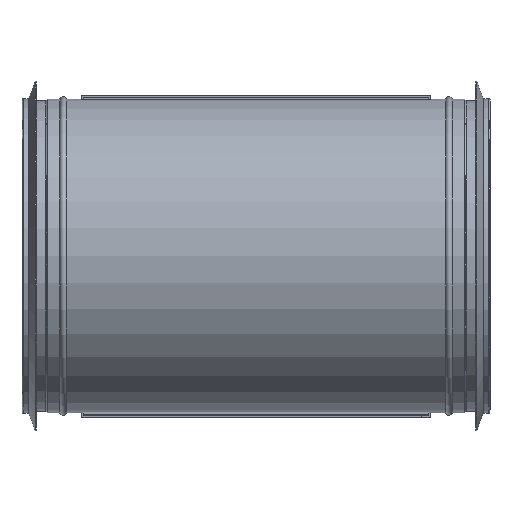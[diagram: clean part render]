
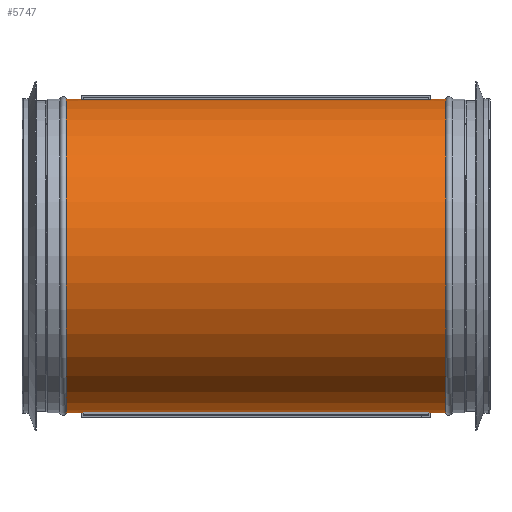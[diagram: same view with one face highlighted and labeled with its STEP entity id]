
A CAD part, top view. The second image highlights one B-rep face of the part: STEP entity #5747.
In plain terms, the highlighted cylindrical face has radius 124 mm (diameter 248 mm), a full revolution.
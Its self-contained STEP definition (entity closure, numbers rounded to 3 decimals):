
#572=LINE('',#11913,#896);
#575=LINE('',#11919,#899);
#896=VECTOR('',#7653,10.);
#899=VECTOR('',#7658,10.);
#944=CYLINDRICAL_SURFACE('',#6328,124.);
#1221=FACE_BOUND('',#1957,.T.);
#1222=FACE_BOUND('',#1958,.T.);
#1544=FACE_OUTER_BOUND('',#1956,.T.);
#1956=EDGE_LOOP('',(#5084));
#1957=EDGE_LOOP('',(#5085,#5086,#5087,#5088));
#1958=EDGE_LOOP('',(#5089));
#1977=CIRCLE('',#5792,124.);
#1983=CIRCLE('',#5799,124.);
#2241=CIRCLE('',#6299,124.);
#2256=CIRCLE('',#6329,124.);
#2266=VERTEX_POINT('',#7808);
#2271=VERTEX_POINT('',#7817);
#2280=VERTEX_POINT('',#7836);
#2281=VERTEX_POINT('',#7838);
#2785=VERTEX_POINT('',#11957);
#2800=VERTEX_POINT('',#12002);
#2815=EDGE_CURVE('',#2266,#2271,#1977,.T.);
#2824=EDGE_CURVE('',#2281,#2280,#1983,.T.);
#3534=EDGE_CURVE('',#2271,#2281,#572,.T.);
#3537=EDGE_CURVE('',#2280,#2266,#575,.T.);
#3551=EDGE_CURVE('',#2785,#2785,#2241,.T.);
#3566=EDGE_CURVE('',#2800,#2800,#2256,.T.);
#5084=ORIENTED_EDGE('',*,*,#3566,.T.);
#5085=ORIENTED_EDGE('',*,*,#2815,.T.);
#5086=ORIENTED_EDGE('',*,*,#3534,.T.);
#5087=ORIENTED_EDGE('',*,*,#2824,.T.);
#5088=ORIENTED_EDGE('',*,*,#3537,.T.);
#5089=ORIENTED_EDGE('',*,*,#3551,.F.);
#5747=ADVANCED_FACE('',(#1544,#1221,#1222),#944,.T.);
#5792=AXIS2_PLACEMENT_3D('',#7819,#6374,#6375);
#5799=AXIS2_PLACEMENT_3D('',#7839,#6391,#6392);
#6299=AXIS2_PLACEMENT_3D('',#11958,#7707,#7708);
#6328=AXIS2_PLACEMENT_3D('',#12001,#7765,#7766);
#6329=AXIS2_PLACEMENT_3D('',#12003,#7767,#7768);
#6374=DIRECTION('center_axis',(-1.,0.,0.));
#6375=DIRECTION('ref_axis',(0.,0.,
-1.));
#6391=DIRECTION('center_axis',(1.,0.,0.));
#6392=DIRECTION('ref_axis',(0.,0.,
-1.));
#7653=DIRECTION('',(1.,0.,0.));
#7658=DIRECTION('',(-1.,0.,0.));
#7707=DIRECTION('center_axis',(-1.,0.,0.));
#7708=DIRECTION('ref_axis',(0.,0.,
-1.));
#7765=DIRECTION('center_axis',(-1.,0.,0.));
#7766=DIRECTION('ref_axis',(0.,0.,
-1.));
#7767=DIRECTION('center_axis',(-1.,0.,0.));
#7768=DIRECTION('ref_axis',(0.,0.,
-1.));
#7808=CARTESIAN_POINT('',(53.2,168.025,12.919));
#7817=CARTESIAN_POINT('',(53.2,-78.625,12.919));
#7819=CARTESIAN_POINT('Origin',(53.2,44.7,0.));
#7836=CARTESIAN_POINT('',(326.2,168.025,12.919));
#7838=CARTESIAN_POINT('',(326.2,-78.625,12.919));
#7839=CARTESIAN_POINT('Origin',(326.2,44.7,0.));
#11913=CARTESIAN_POINT('',(189.7,-78.625,12.919));
#11919=CARTESIAN_POINT('',(189.7,168.025,12.919));
#11957=CARTESIAN_POINT('',(39.808,-79.3,0.));
#11958=CARTESIAN_POINT('Origin',(39.808,44.7,0.));
#12001=CARTESIAN_POINT('Origin',(189.7,44.7,0.));
#12002=CARTESIAN_POINT('',(339.592,-79.3,0.));
#12003=CARTESIAN_POINT('Origin',(339.592,44.7,0.));
